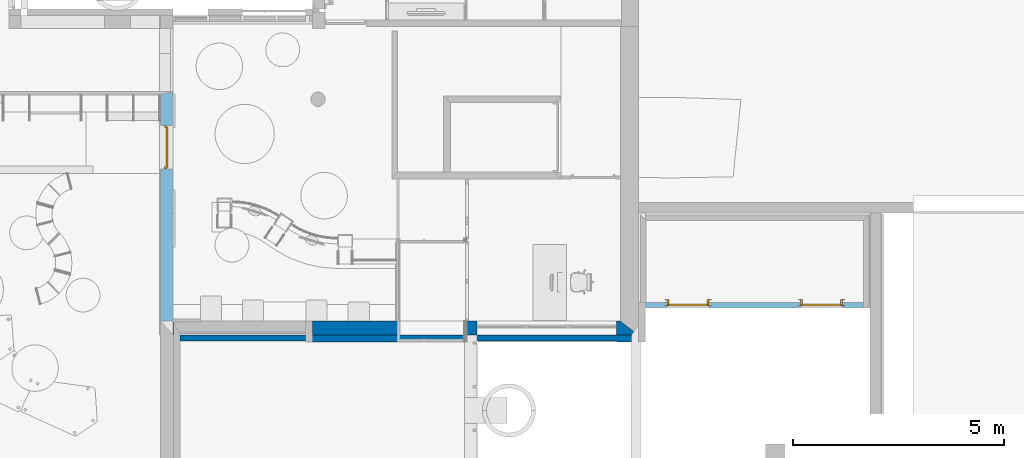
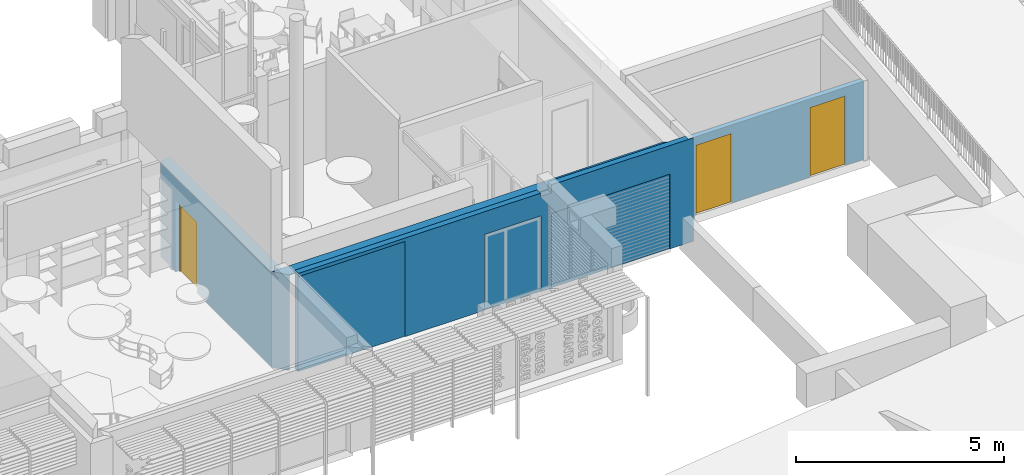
# One storey, part 42 of 64: 3 doors, 2 walls, 3 openings, plus 2 elements that do not belong to this part.
"""IFC2X3 building model written with IfcOpenShell, lengths in metres."""

from ifc_helpers import new_model, entity, si_unit, converted_unit, derived_unit, direction, frame, frame_2d, origin, place, context, subcontext, project, spatial, polyline, rectangle, outline, extrude, faceted_brep, source, transform, mapped, material, layer, layer_set, layer_usage, type_object, type_shapes, element, fill, save


model = new_model("IFC2X3")

# Units and contexts
model_context = context("Model", 3, precision=1e-05, world=origin(), true_north=direction((6.123031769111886e-17, 1.0)))
body_context = subcontext(model_context, "Body", "Model", "MODEL_VIEW")
ifc_project = project(units=[si_unit("LENGTHUNIT", "METRE"), si_unit("AREAUNIT", "SQUARE_METRE"), si_unit("VOLUMEUNIT", "CUBIC_METRE"), converted_unit("PLANEANGLEUNIT", "DEGREE", entity("IfcRatioMeasure", 0.017453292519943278), si_unit("PLANEANGLEUNIT", "RADIAN"), dimensions=[0, 0, 0, 0, 0, 0, 0]), si_unit("MASSUNIT", "GRAM", prefix="KILO"), derived_unit("MASSDENSITYUNIT", [(si_unit("MASSUNIT", "GRAM", prefix="KILO"), 1), (si_unit("LENGTHUNIT", "METRE"), -3)]), derived_unit("MOMENTOFINERTIAUNIT", [(si_unit("LENGTHUNIT", "METRE"), 4)]), si_unit("TIMEUNIT", "SECOND"), si_unit("FREQUENCYUNIT", "HERTZ"), si_unit("THERMODYNAMICTEMPERATUREUNIT", "DEGREE_CELSIUS"), derived_unit("THERMALTRANSMITTANCEUNIT", [(si_unit("MASSUNIT", "GRAM", prefix="KILO"), 1), (si_unit("THERMODYNAMICTEMPERATUREUNIT", "KELVIN"), -1), (si_unit("TIMEUNIT", "SECOND"), -3)]), derived_unit("THERMALCONDUCTANCEUNIT", [(si_unit("MASSUNIT", "GRAM", prefix="KILO"), 1), (si_unit("LENGTHUNIT", "METRE"), 1), (si_unit("THERMODYNAMICTEMPERATUREUNIT", "KELVIN"), -1), (si_unit("TIMEUNIT", "SECOND"), -3)]), derived_unit("VOLUMETRICFLOWRATEUNIT", [(si_unit("LENGTHUNIT", "METRE"), 3), (si_unit("TIMEUNIT", "SECOND"), -1)]), derived_unit("MASSFLOWRATEUNIT", [(si_unit("MASSUNIT", "GRAM", prefix="KILO"), 1), (si_unit("TIMEUNIT", "SECOND"), -1)]), derived_unit("ROTATIONALFREQUENCYUNIT", [(si_unit("TIMEUNIT", "SECOND"), -1)]), si_unit("ELECTRICCURRENTUNIT", "AMPERE"), si_unit("ELECTRICVOLTAGEUNIT", "VOLT"), si_unit("POWERUNIT", "WATT"), si_unit("FORCEUNIT", "NEWTON", prefix="KILO"), si_unit("ILLUMINANCEUNIT", "LUX"), si_unit("LUMINOUSFLUXUNIT", "LUMEN"), si_unit("LUMINOUSINTENSITYUNIT", "CANDELA"), derived_unit("USERDEFINED", [(si_unit("MASSUNIT", "GRAM", prefix="KILO"), -1), (si_unit("LENGTHUNIT", "METRE"), -2), (si_unit("TIMEUNIT", "SECOND"), 3), (si_unit("LUMINOUSFLUXUNIT", "LUMEN"), 1)]), derived_unit("USERDEFINED", [(si_unit("MASSUNIT", "GRAM", prefix="KILO"), 1), (si_unit("LENGTHUNIT", "METRE"), 3), (si_unit("TIMEUNIT", "SECOND"), -3), (si_unit("ELECTRICCURRENTUNIT", "AMPERE"), -2)]), derived_unit("USERDEFINED", [(si_unit("LENGTHUNIT", "METRE"), 2), (si_unit("TIMEUNIT", "SECOND"), -2)]), derived_unit("SOUNDPOWERUNIT", [(si_unit("MASSUNIT", "GRAM", prefix="KILO"), 1), (si_unit("LENGTHUNIT", "METRE"), 2), (si_unit("TIMEUNIT", "SECOND"), -3)]), derived_unit("SOUNDPRESSUREUNIT", [(si_unit("MASSUNIT", "GRAM", prefix="KILO"), 1), (si_unit("LENGTHUNIT", "METRE"), -1), (si_unit("TIMEUNIT", "SECOND"), -2)]), derived_unit("LINEARVELOCITYUNIT", [(si_unit("LENGTHUNIT", "METRE"), 1), (si_unit("TIMEUNIT", "SECOND"), -1)]), si_unit("PRESSUREUNIT", "PASCAL"), derived_unit("USERDEFINED", [(si_unit("LENGTHUNIT", "METRE"), -2), (si_unit("MASSUNIT", "GRAM", prefix="KILO"), 1), (si_unit("TIMEUNIT", "SECOND"), -2)]), derived_unit("LINEARFORCEUNIT", [(si_unit("MASSUNIT", "GRAM", prefix="KILO"), 1), (si_unit("LENGTHUNIT", "METRE"), 1), (si_unit("TIMEUNIT", "SECOND"), -2), (si_unit("LENGTHUNIT", "METRE"), -1)]), derived_unit("PLANARFORCEUNIT", [(si_unit("MASSUNIT", "GRAM", prefix="KILO"), 1), (si_unit("LENGTHUNIT", "METRE"), 1), (si_unit("TIMEUNIT", "SECOND"), -2), (si_unit("LENGTHUNIT", "METRE"), -2)]), derived_unit("SPECIFICHEATCAPACITYUNIT", [(si_unit("LENGTHUNIT", "METRE"), 2), (si_unit("TIMEUNIT", "SECOND"), -2), (si_unit("THERMODYNAMICTEMPERATUREUNIT", "KELVIN"), -1)]), derived_unit("VAPORPERMEABILITYUNIT", [(si_unit("TIMEUNIT", "SECOND"), 1), (si_unit("LENGTHUNIT", "METRE"), -1)]), derived_unit("DYNAMICVISCOSITYUNIT", [(si_unit("MASSUNIT", "GRAM", prefix="KILO"), 1), (si_unit("LENGTHUNIT", "METRE"), -1), (si_unit("TIMEUNIT", "SECOND"), -1)]), derived_unit("THERMALEXPANSIONCOEFFICIENTUNIT", [(si_unit("THERMODYNAMICTEMPERATUREUNIT", "KELVIN"), -1)])], contexts=[model_context])

# Site, building, storey
site_placement = place(None, origin())
site = spatial("IfcSite", under=ifc_project, at=site_placement, Name="Default", CompositionType="ELEMENT")
building_placement = place(site_placement, origin())
building = spatial("IfcBuilding", under=site, at=building_placement, CompositionType="ELEMENT")
storey_placement = place(building_placement, origin())
storey = spatial("IfcBuildingStorey", under=building, at=storey_placement, Name="REZ-DE-CHAUSSÉE", CompositionType="ELEMENT", Elevation=0.0)

# Walls
wall_type_1 = type_object("IfcWallType", Name="MurExt-013", PredefinedType="NOTDEFINED")
wall_1_placement = place(storey_placement, frame((117.5507522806, 7.587209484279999, 0.0)))
element("IfcWall", 1, at=wall_1_placement, inside=storey, type_object=wall_type_1, Name="MurExt-013:MurExt-013", ObjectType="MurExt-013:MurExt-013", context=body_context, shape_type="Brep", body=[
    faceted_brep([(7.029999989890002, 0.019999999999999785, 3.0399999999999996), (7.029999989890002, 0.0, 3.0399999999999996), (10.989999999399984, 0.0, 3.0399999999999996), (10.989999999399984, 0.019999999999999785, 3.0399999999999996), (5.1699999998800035, 0.019999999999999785, 0.0), (5.1699999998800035, 0.0, 0.0), (2.96999999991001, 0.0, 0.0), (2.96999999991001, 0.019999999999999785, 0.0), (7.029999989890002, 0.019999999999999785, 2.8), (10.989999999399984, 0.019999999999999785, 0.0), (10.330000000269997, 0.019999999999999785, 0.0), (10.330000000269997, 0.019999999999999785, 2.2), (7.030000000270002, 0.019999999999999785, 2.2), (7.030000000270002, 0.019999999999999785, 0.0), (6.749999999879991, 0.019999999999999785, 0.0), (6.749999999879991, 0.019999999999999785, 2.23), (5.1699999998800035, 0.019999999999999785, 2.23), (2.96999999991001, 0.019999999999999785, 2.8), (0.0, 0.019999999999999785, 2.8), (0.0, 0.019999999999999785, 2.8999999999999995), (6.7299999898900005, 0.019999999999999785, 2.8999999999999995), (6.7299999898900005, 0.019999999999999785, 2.8), (7.029999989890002, 0.0, 2.8), (6.7299999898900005, 0.0, 2.8), (6.7299999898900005, 0.0, 2.8999999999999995), (0.0, 0.0, 2.8999999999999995), (0.0, 0.0, 2.8), (2.96999999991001, 0.0, 2.8), (5.1699999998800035, 0.0, 2.23), (6.749999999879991, 0.0, 2.23), (6.749999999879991, 0.0, 0.0), (7.030000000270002, 0.0, 0.0), (7.030000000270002, 0.0, 2.2), (10.330000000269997, 0.0, 2.2), (10.330000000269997, 0.0, 0.0), (10.989999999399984, 0.0, 0.0)], [[[0, 1, 2, 3]], [[4, 5, 6, 7]], [[8, 0, 3, 9, 10, 11, 12, 13, 14, 15, 16, 4, 7, 17, 18, 19, 20, 21]], [[1, 22, 23, 24, 25, 26, 27, 6, 5, 28, 29, 30, 31, 32, 33, 34, 35, 2]], [[8, 22, 1, 0]], [[22, 8, 21, 23]], [[25, 19, 18, 26]], [[23, 21, 20, 24]], [[19, 25, 24, 20]], [[3, 2, 35, 9]], [[27, 17, 7, 6]], [[33, 11, 10, 34]], [[29, 15, 14, 30]], [[15, 29, 28, 16]], [[16, 28, 5, 4]], [[12, 32, 31, 13]], [[11, 33, 32, 12]], [[17, 27, 26, 18]], [[30, 14, 13, 31]], [[9, 35, 34, 10]]]),
    faceted_brep([(7.029999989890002, 0.16000000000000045, 3.0399999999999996), (7.029999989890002, 0.019999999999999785, 3.0399999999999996), (10.8499999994, 0.019999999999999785, 3.0399999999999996), (10.8499999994, 0.16000000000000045, 3.0399999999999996), (2.96999999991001, 0.16000000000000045, 0.0), (2.96999999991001, 0.019999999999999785, 0.0), (0.0, 0.019999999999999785, 0.0), (0.0, 0.16000000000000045, 0.0), (2.96999999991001, 0.16000000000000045, 2.8), (0.0, 0.16000000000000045, 2.8999999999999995), (6.7299999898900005, 0.16000000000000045, 2.8999999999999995), (6.7299999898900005, 0.16000000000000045, 2.8), (7.029999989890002, 0.16000000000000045, 2.7999999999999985), (10.8499999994, 0.16000000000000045, 0.0), (2.9899999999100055, 0.16000000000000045, 0.0), (2.9899999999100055, 0.16000000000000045, 2.8), (2.96999999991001, 0.019999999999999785, 2.8), (2.9899999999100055, 0.019999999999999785, 2.8), (2.9899999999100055, 0.019999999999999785, 0.0), (10.8499999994, 0.019999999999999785, 0.0), (7.029999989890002, 0.019999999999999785, 2.8), (6.7299999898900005, 0.019999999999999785, 2.8), (6.7299999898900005, 0.019999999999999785, 2.8999999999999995), (0.0, 0.019999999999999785, 2.8999999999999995), (6.7299999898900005, 0.16000007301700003, 2.8999999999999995), (0.0, 0.16000007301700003, 2.8999999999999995)], [[[0, 1, 2, 3]], [[4, 5, 6, 7]], [[8, 4, 7, 9, 10, 11, 12, 0, 3, 13, 14, 15]], [[5, 16, 17, 18, 19, 2, 1, 20, 21, 22, 23, 6]], [[8, 16, 5, 4]], [[16, 8, 15, 17]], [[17, 15, 14, 18]], [[12, 20, 1, 0]], [[20, 12, 11, 21]], [[23, 9, 7, 6]], [[21, 11, 24, 22]], [[25, 23, 22, 10]], [[3, 2, 19, 13]], [[18, 14, 13, 19]]]),
])
ifc_material_1 = material(Name="Appareillage - Pierre taillé")
ifc_layer_1 = layer(ifc_material_1, 0.32999999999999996)
ifc_layer_set_1 = layer_set([ifc_layer_1], Name="Mur de base:Struct. - Pierre 330")
wall_type_2 = type_object("IfcWallType", Name="Mur de base:Struct. - Pierre 330", PredefinedType="STANDARD", material=ifc_layer_set_1)
wall_2_placement = place(storey_placement, frame((128.4523829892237, 7.91220948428, 0.0), z_axis=(0.0, 0.0, 1.0), x_axis=(-1.0, 0.0, 0.0)))
element("IfcWallStandardCase", 2, at=wall_2_placement, inside=storey, type_object=wall_type_2, Name="MurExt-003", ObjectType="Mur de base:Struct. - Pierre 330", context=body_context, shape_type="Brep", body=[
    faceted_brep([(11.361630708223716, -0.16499999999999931, 2.8199999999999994), (0.48163070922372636, -0.16499999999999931, 2.8199999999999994), (0.48163070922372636, -0.16499999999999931, 0.7999999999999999), (0.05163070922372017, -0.16499999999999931, 0.7999999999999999), (0.0, -0.16499999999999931, 0.7999999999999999), (0.0, -0.16499999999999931, 0.0), (0.05163070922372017, -0.16499999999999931, 0.0), (0.48163070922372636, -0.16499999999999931, 0.0), (0.5716307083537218, -0.16499999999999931, 0.0), (0.5716307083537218, -0.16499999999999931, 2.2), (3.8716307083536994, -0.16499999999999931, 2.2), (3.8716307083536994, -0.16499999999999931, 0.0), (4.151630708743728, -0.16499999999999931, 0.0), (4.151630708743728, -0.16499999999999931, 2.2), (5.731630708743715, -0.16499999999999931, 2.2), (5.731630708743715, -0.16499999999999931, 0.0), (7.771630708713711, -0.16499999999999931, 0.0), (7.771630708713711, -0.16499999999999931, 2.8), (11.061630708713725, -0.16499999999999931, 2.8), (11.061630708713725, -0.16499999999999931, 0.0), (11.071630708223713, -0.16499999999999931, 0.0), (11.361630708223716, -0.16499999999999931, 0.0), (0.05163070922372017, 0.1650000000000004, 2.8199999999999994), (11.061630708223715, 0.1650000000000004, 2.8199999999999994), (11.061630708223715, 0.1650000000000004, 2.8), (7.771630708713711, 0.1650000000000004, 2.8), (7.771630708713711, 0.1650000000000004, 0.0), (5.731630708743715, 0.1650000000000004, 0.0), (5.731630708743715, 0.1650000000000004, 2.2), (4.151630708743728, 0.1650000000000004, 2.2), (4.151630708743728, 0.1650000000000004, 0.0), (3.8716307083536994, 0.1650000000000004, 0.0), (3.8716307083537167, 0.1650000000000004, 2.2), (0.5716307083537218, 0.1650000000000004, 2.2), (0.5716307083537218, 0.1650000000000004, 0.0), (0.2211770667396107, 0.1650000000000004, 0.0), (0.2211770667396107, 0.1650000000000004, 0.7999999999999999), (0.05163070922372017, 0.1650000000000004, 0.7999999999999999), (0.5716307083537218, -0.0033000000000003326, 0.0), (11.061630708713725, 0.1650000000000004, 2.8), (11.061630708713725, 0.16499999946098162, 2.8), (11.061630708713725, 0.1650000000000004, 0.0), (3.8716307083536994, -0.0033000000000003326, 0.0), (11.061630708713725, 0.16499999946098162, 0.0), (0.16358940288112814, 0.07907821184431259, 0.7999999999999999), (11.061630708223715, 0.1650000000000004, 0.0)], [[[0, 1, 2, 3, 4, 5, 6, 7, 8, 9, 10, 11, 12, 13, 14, 15, 16, 17, 18, 19, 20, 21]], [[22, 23, 24, 25, 26, 27, 28, 29, 30, 31, 32, 33, 34, 35, 36, 37]], [[5, 35, 34, 38, 8, 7, 6]], [[1, 0, 23, 22]], [[28, 14, 13, 29]], [[14, 28, 27, 15]], [[29, 13, 12, 30]], [[39, 18, 17, 25]], [[18, 40, 41, 19]], [[25, 17, 16, 26]], [[32, 10, 9, 33]], [[11, 10, 32, 31, 42]], [[33, 9, 8, 38, 34]], [[21, 43, 24, 23, 0]], [[4, 3, 2, 44]], [[5, 4, 44, 36, 35]], [[2, 1, 22, 37, 44]], [[37, 36, 44]], [[21, 20, 19, 45]], [[30, 12, 11, 42, 31]], [[27, 26, 16, 15]]]),
])

# Wall, opening, door
ifc_layer_2 = layer(ifc_material_1, 0.29)
ifc_layer_set_2 = layer_set([ifc_layer_2], Name="Mur de base:Struct. - Pierre 290")
ifc_layer_usage_1 = layer_usage(ifc_layer_set_2, "AXIS2", "NEGATIVE", 0.145)
wall_type_3 = type_object("IfcWallType", Name="Mur de base:Struct. - Pierre 290", PredefinedType="STANDARD", material=ifc_layer_set_2)
wall_3_placement = place(storey_placement, frame((117.235752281, 13.5072094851, 0.0), z_axis=(0.0, 0.0, 1.0), x_axis=(0.0, -1.0, 0.0)))
wall_3 = element("IfcWallStandardCase", 3, at=wall_3_placement, inside=storey, type_object=wall_type_3, material=ifc_layer_usage_1, Name="MurExt-003", ObjectType="Mur de base:Struct. - Pierre 290", context=body_context, shape_type="SweptSolid", body=[
    extrude(outline(polyline([(0.07999999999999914, -0.14500000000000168), (5.430000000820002, -0.14500000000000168), (5.430000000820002, 0.14500000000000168), (0.0, 0.14500000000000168), (0.07999999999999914, -0.14500000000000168)])), origin(), (0.0, 0.0, 1.0), 2.8),
])
opening_1_placement = place(wall_3_placement, frame((13.5072094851, -117.235752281, 0.0), z_axis=(0.0, 0.0, 1.0), x_axis=(0.0, 1.0, 0.0)))
opening_1 = element("IfcOpeningElement", 4, at=opening_1_placement, cuts=wall_3, Name="MurExt-003", ObjectType="Opening", context=body_context, shape_type="SweptSolid", body=[
    extrude(rectangle(XDim=2.09, YDim=1.0299999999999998, at=frame_2d((0.0, 0.0), x_axis=(0.0, 1.0))), frame((116.939952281, 12.19720948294, 1.045), z_axis=(1.0, 0.0, 0.0), x_axis=(0.0, -1.0, 0.0)), (0.0, 0.0, 1.0), 0.5916000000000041),
])
ifc_material_2 = material(Name="Peinture - Gris clair")
door_style_1 = type_object("IfcDoorStyle", Name="Por-003", ConstructionType="NOTDEFINED", OperationType="SINGLE_SWING_LEFT", ParameterTakesPrecedence=False, Sizeable=False, material=ifc_material_2)
shared_shape_1 = source(origin(), body_context, "Body", "Brep", [
    faceted_brep([(0.0, -0.29579999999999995, 0.0), (0.0, -0.29579999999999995, 2.09), (1.03, -0.29579999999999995, 2.09), (1.03, -0.29579999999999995, 0.0), (0.995, -0.29579999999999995, 0.0), (0.995, -0.29579999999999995, 2.055), (0.03500000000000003, -0.29579999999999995, 2.055), (0.03500000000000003, -0.29579999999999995, 0.0), (0.0, -0.34579999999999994, 0.0), (0.0, -0.34579999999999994, 2.09), (1.03, -0.34579999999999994, 2.09), (1.03, -0.34579999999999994, 0.0), (0.98, -0.34579999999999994, 0.0), (0.98, -0.3107999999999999, 0.0), (0.995, -0.3107999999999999, 0.0), (0.995, -0.3107999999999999, 2.055), (0.03500000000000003, -0.3107999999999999, 2.055), (0.03500000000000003, -0.3107999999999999, 0.0), (0.05, -0.3107999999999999, 0.0), (0.05, -0.34579999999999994, 0.0), (0.98, -0.34579999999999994, 2.04), (0.05, -0.34579999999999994, 2.04), (0.98, -0.3107999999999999, 2.04), (0.05, -0.3107999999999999, 2.04), (0.03500000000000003, -0.2708, 0.0), (0.995, -0.2708, 0.0), (0.03500000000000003, -0.2708, 2.055), (0.995, -0.2708, 2.055)], [[[0, 1, 2, 3, 4, 5, 6, 7]], [[8, 9, 1, 0]], [[9, 10, 2, 1]], [[10, 11, 3, 2]], [[3, 11, 12, 13, 14, 4]], [[5, 4, 14, 15]], [[6, 5, 15, 16]], [[7, 6, 16, 17]], [[0, 7, 17, 18, 19, 8]], [[19, 8, 9, 10, 11, 12, 20, 21]], [[22, 13, 12, 20]], [[17, 16, 15, 14, 13, 22, 23, 18]], [[18, 23, 21, 19]], [[23, 22, 20, 21]], [[24, 25, 14, 17]], [[24, 26, 27, 25]], [[25, 27, 15, 14]], [[17, 14, 15, 16]], [[26, 24, 17, 16]], [[27, 26, 16, 15]]]),
])
type_shapes(door_style_1, [shared_shape_1])
door_1_placement = place(opening_1_placement, frame((117.531552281, 12.712209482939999, 0.0), z_axis=(0.0, 0.0, 1.0), x_axis=(0.0, -1.0, 0.0)))
door_1 = element("IfcDoor", 5, at=door_1_placement, inside=storey, type_object=door_style_1, material=ifc_material_2, Name="Por-003 9927:Por-003 9927", ObjectType="Por-003 9927:Por-003 9927", OverallHeight=2.09, OverallWidth=1.0299999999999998, context=body_context, shape_type="MappedRepresentation", body=[
    mapped(shared_shape_1, transform((0.0, 0.0, 0.0), scale=1.0)),
])
fill(opening_1, door_1)

# Wall, openings, doors
ifc_material_3 = material(Name="Béton - Parpaing (Blocs)")
ifc_layer_3 = layer(ifc_material_3, 0.12999999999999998)
ifc_layer_set_3 = layer_set([ifc_layer_3], Name="Mur de base:Struct. - Parpaing béton 130")
ifc_layer_usage_2 = layer_usage(ifc_layer_set_3, "AXIS2", "NEGATIVE", 0.06499999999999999)
wall_type_4 = type_object("IfcWallType", Name="Mur de base:Struct. - Parpaing béton 130", PredefinedType="STANDARD", material=ifc_layer_set_3)
wall_4_placement = place(storey_placement, frame((133.72075227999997, 8.452209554, 0.1), z_axis=(0.0, 0.0, 1.0), x_axis=(-1.0, 0.0, 0.0)))
wall_4 = element("IfcWallStandardCase", 6, at=wall_4_placement, inside=storey, type_object=wall_type_4, material=ifc_layer_usage_2, Name="MurExt-021", ObjectType="Mur de base:Struct. - Parpaing béton 130", context=body_context, shape_type="SweptSolid", body=[
    extrude(rectangle(XDim=5.159999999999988, YDim=0.13000000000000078, at=frame_2d((2.579999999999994, 0.0), x_axis=(-1.0, 0.0))), origin(), (0.0, 0.0, 1.0), 2.3),
])
opening_2_placement = place(wall_4_placement, frame((133.72075227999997, 8.452209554, -0.1), z_axis=(0.0, 0.0, 1.0), x_axis=(-1.0, 0.0, 0.0)))
opening_2 = element("IfcOpeningElement", 7, at=opening_2_placement, cuts=wall_4, Name="MurExt-021", ObjectType="Opening", context=body_context, shape_type="SweptSolid", body=[
    extrude(rectangle(XDim=2.05, YDim=0.999999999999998, at=frame_2d((8.68749516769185e-15, 0.0), x_axis=(0.0, 1.0))), frame((132.73075228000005, 8.584809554, 1.1249999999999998), z_axis=(0.0, -1.0, 0.0), x_axis=(-1.0, 0.0, 0.0)), (0.0, 0.0, 1.0), 0.2652000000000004),
])
opening_3_placement = place(wall_4_placement, frame((133.72075227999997, 8.452209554, -0.1), z_axis=(0.0, 0.0, 1.0), x_axis=(-1.0, 0.0, 0.0)))
opening_3 = element("IfcOpeningElement", 8, at=opening_3_placement, cuts=wall_4, Name="MurExt-021", ObjectType="Opening", context=body_context, shape_type="SweptSolid", body=[
    extrude(rectangle(XDim=2.05, YDim=0.999999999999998, at=frame_2d((0.0, -8.68749516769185e-15), x_axis=(1.0, 0.0))), frame((129.57075228, 8.584809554, 1.1249999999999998), z_axis=(0.0, -1.0, 0.0), x_axis=(0.0, 0.0, 1.0)), (0.0, 0.0, 1.0), 0.2652000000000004),
])
ifc_material_4 = material(Name="Métal - Acier inoxydable")
door_style_2 = type_object("IfcDoorStyle", Name="Por-003", ConstructionType="NOTDEFINED", OperationType="SINGLE_SWING_LEFT", ParameterTakesPrecedence=False, Sizeable=False, material=ifc_material_4)
shared_shape_2 = source(origin(), body_context, "Body", "Brep", [
    faceted_brep([(-0.04999999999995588, -0.1326, 0.0), (-0.04999999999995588, -0.1326, 2.1), (-0.04999999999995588, -0.1226, 2.1), (-0.04999999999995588, -0.1226, 0.0), (0.0, -0.1326, 0.0), (1.050000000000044, -0.1326, 2.1), (1.050000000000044, -0.1326, 0.0), (1.0, -0.1326, 0.0), (1.0, -0.1326, 2.05), (0.0, -0.1326, 2.05), (1.050000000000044, -0.1226, 2.1), (1.050000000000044, -0.1226, 0.0), (0.9650000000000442, -0.1226, 0.0), (0.9650000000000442, -0.1226, 2.015), (0.035000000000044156, -0.1226, 2.015), (0.035000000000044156, -0.1226, 0.0), (0.035000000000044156, -0.1626, 0.0), (0.050000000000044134, -0.1626, 0.0), (0.050000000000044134, -0.2726, 0.0), (-0.04999999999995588, -0.2726, 0.0), (-0.04999999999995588, -0.2626, 0.0), (0.0, -0.2626, 0.0), (0.0, -0.2626, 2.05), (1.0, -0.2626, 2.05), (1.0, -0.2626, 0.0), (0.9650000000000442, -0.1626, 0.0), (0.950000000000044, -0.1626, 0.0), (0.950000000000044, -0.2726, 0.0), (1.050000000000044, -0.2726, 0.0), (1.050000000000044, -0.2626, 0.0), (0.9650000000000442, -0.1626, 2.015), (0.035000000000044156, -0.1626, 2.015), (0.950000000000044, -0.1626, 2.0), (0.050000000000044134, -0.1626, 2.0), (0.050000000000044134, -0.2726, 2.0), (-0.04999999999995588, -0.2726, 2.1), (1.050000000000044, -0.2726, 2.1), (0.950000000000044, -0.2726, 2.0), (-0.04999999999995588, -0.2626, 2.1), (1.050000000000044, -0.26259999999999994, 2.1)], [[[0, 1, 2, 3]], [[4, 0, 1, 5, 6, 7, 8, 9]], [[1, 5, 10, 2]], [[3, 2, 10, 11, 12, 13, 14, 15]], [[0, 3, 15, 16, 17, 18, 19, 20, 21, 4]], [[21, 22, 9, 4]], [[22, 23, 8, 9]], [[23, 24, 7, 8]], [[6, 11, 12, 25, 26, 27, 28, 29, 24, 7]], [[5, 6, 11, 10]], [[13, 12, 25, 30]], [[14, 13, 30, 31]], [[15, 14, 31, 16]], [[16, 31, 30, 25, 26, 32, 33, 17]], [[17, 33, 34, 18]], [[18, 19, 35, 36, 28, 27, 37, 34]], [[19, 35, 38, 20]], [[20, 38, 39, 29, 24, 23, 22, 21]], [[36, 28, 29, 39]], [[32, 26, 27, 37]], [[33, 32, 37, 34]], [[35, 36, 39, 38]], [[15, 12, 25, 16]], [[15, 14, 13, 12]], [[12, 13, 30, 25]], [[16, 25, 30, 31]], [[14, 15, 16, 31]], [[13, 14, 31, 30]]]),
])
type_shapes(door_style_2, [shared_shape_2])
door_2_placement = place(opening_2_placement, frame((133.23075228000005, 8.319609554, 0.1), z_axis=(0.0, 0.0, 1.0), x_axis=(-1.0, 0.0, 0.0)))
door_2 = element("IfcDoor", 9, at=door_2_placement, inside=storey, type_object=door_style_2, material=ifc_material_4, Name="Por-003 147138:Por-003 147138", ObjectType="Por-003 147138:Por-003 147138", OverallHeight=2.05, OverallWidth=0.9999999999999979, context=body_context, shape_type="MappedRepresentation", body=[
    mapped(shared_shape_2, transform((0.0, 0.0, 0.0), scale=1.0)),
])
fill(opening_2, door_2)
door_style_3 = type_object("IfcDoorStyle", Name="Por-004", ConstructionType="NOTDEFINED", OperationType="SINGLE_SWING_RIGHT", ParameterTakesPrecedence=False, Sizeable=False, material=ifc_material_4)
shared_shape_3 = source(origin(), body_context, "Body", "Brep", [
    faceted_brep([(1.0500000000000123, -0.1326, 0.0), (1.0500000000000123, -0.1226, 0.0), (1.0500000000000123, -0.1226, 2.1), (1.0500000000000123, -0.1326, 2.1), (0.9650000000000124, -0.12259999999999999, 0.0), (0.9650000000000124, -0.1626, 0.0), (0.9500000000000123, -0.1626, 0.0), (0.9500000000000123, -0.2726, 0.0), (1.0500000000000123, -0.2726, 0.0), (1.0500000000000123, -0.2626, 0.0), (1.0, -0.2626, 0.0), (1.0, -0.1326, 0.0), (0.9650000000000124, -0.1226, 2.015), (0.03500000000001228, -0.1226, 2.015), (0.03500000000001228, -0.1226, 0.0), (-0.049999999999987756, -0.1226, 0.0), (-0.049999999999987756, -0.1226, 2.1), (-0.049999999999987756, -0.1326, 2.1), (-0.049999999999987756, -0.1326, 0.0), (0.0, -0.1326, 0.0), (0.0, -0.1326, 2.05), (1.0, -0.1326, 2.05), (1.0, -0.2626, 2.05), (0.0, -0.26259999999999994, 2.05), (0.0, -0.26259999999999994, 0.0), (-0.049999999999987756, -0.26259999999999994, 0.0), (-0.049999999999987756, -0.26259999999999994, 2.1), (1.0500000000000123, -0.26259999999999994, 2.1), (1.0500000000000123, -0.2726, 2.1), (-0.049999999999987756, -0.2726, 2.1), (-0.049999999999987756, -0.2726, 0.0), (0.05000000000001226, -0.2726, 0.0), (0.05000000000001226, -0.2726, 2.0), (0.9500000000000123, -0.2726, 2.0), (0.9500000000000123, -0.1626, 2.0), (0.05000000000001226, -0.1626, 2.0), (0.05000000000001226, -0.1626, 0.0), (0.03500000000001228, -0.1626, 0.0), (0.03500000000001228, -0.1626, 2.015), (0.9650000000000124, -0.1626, 2.015)], [[[0, 1, 2, 3]], [[0, 1, 4, 5, 6, 7, 8, 9, 10, 11]], [[1, 4, 12, 13, 14, 15, 16, 2]], [[3, 2, 16, 17]], [[11, 0, 3, 17, 18, 19, 20, 21]], [[10, 11, 21, 22]], [[9, 10, 22, 23, 24, 25, 26, 27]], [[8, 9, 27, 28]], [[7, 8, 28, 29, 30, 31, 32, 33]], [[6, 7, 33, 34]], [[5, 6, 34, 35, 36, 37, 38, 39]], [[4, 5, 39, 12]], [[12, 39, 38, 13]], [[13, 38, 37, 14]], [[18, 15, 14, 37, 36, 31, 30, 25, 24, 19]], [[17, 16, 15, 18]], [[23, 20, 19, 24]], [[22, 21, 20, 23]], [[29, 26, 25, 30]], [[28, 27, 26, 29]], [[35, 32, 31, 36]], [[34, 33, 32, 35]], [[4, 5, 37, 14]], [[12, 39, 5, 4]], [[5, 39, 38, 37]], [[14, 37, 38, 13]], [[4, 14, 13, 12]], [[13, 38, 39, 12]]]),
])
type_shapes(door_style_3, [shared_shape_3])
door_3_placement = place(opening_3_placement, frame((130.07075228, 8.319609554, 0.1), z_axis=(0.0, 0.0, 1.0), x_axis=(-1.0, 0.0, 0.0)))
door_3 = element("IfcDoor", 10, at=door_3_placement, inside=storey, type_object=door_style_3, material=ifc_material_4, Name="Por-004 147422:Por-004 147422", ObjectType="Por-004 147422:Por-004 147422", OverallHeight=2.05, OverallWidth=0.9999999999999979, context=body_context, shape_type="MappedRepresentation", body=[
    mapped(shared_shape_3, transform((0.0, 0.0, 0.0), scale=1.0)),
])
fill(opening_3, door_3)

save(model, "model.ifc")
